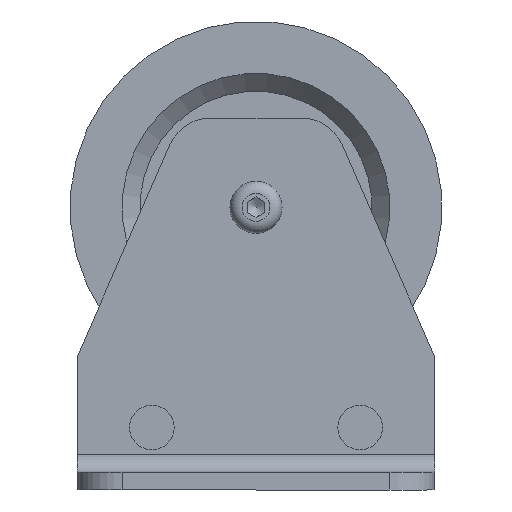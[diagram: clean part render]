
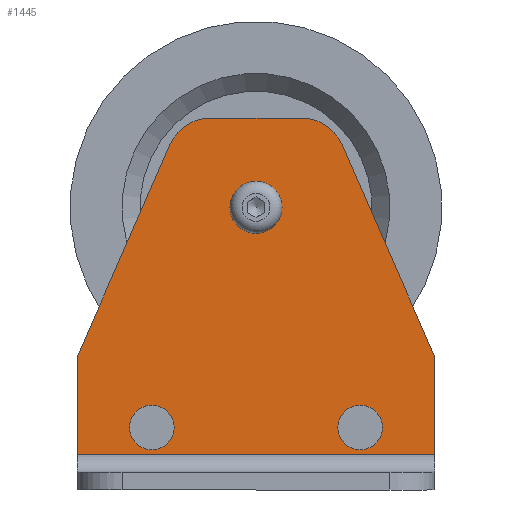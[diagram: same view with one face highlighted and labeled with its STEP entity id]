
A CAD part, front view. The second image highlights one B-rep face of the part: STEP entity #1445.
In plain terms, the highlighted planar face has unit normal (0, -1, 0) as drawn and (0, 0, 1) by its records, which use the part's own axes.
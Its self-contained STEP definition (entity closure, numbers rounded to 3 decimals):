
#110=FACE_BOUND('',#282,.T.);
#111=FACE_BOUND('',#283,.T.);
#112=FACE_BOUND('',#284,.T.);
#140=PLANE('',#1704);
#192=FACE_OUTER_BOUND('',#281,.T.);
#281=EDGE_LOOP('',(#1124,#1125,#1126,#1127,#1128,#1129,#1130,#1131));
#282=EDGE_LOOP('',(#1132));
#283=EDGE_LOOP('',(#1133));
#284=EDGE_LOOP('',(#1134));
#379=LINE('',#2453,#469);
#382=LINE('',#2459,#472);
#390=LINE('',#2493,#480);
#394=LINE('',#2502,#484);
#397=LINE('',#2509,#487);
#398=LINE('',#2511,#488);
#469=VECTOR('',#1959,10.);
#472=VECTOR('',#1964,10.);
#480=VECTOR('',#1998,10.);
#484=VECTOR('',#2008,10.);
#487=VECTOR('',#2017,10.);
#488=VECTOR('',#2020,10.);
#547=CIRCLE('',#1691,7.5);
#548=CIRCLE('',#1693,7.5);
#549=CIRCLE('',#1695,5.2);
#550=CIRCLE('',#1698,15.);
#551=CIRCLE('',#1701,15.);
#661=VERTEX_POINT('',#2444);
#662=VERTEX_POINT('',#2448);
#664=VERTEX_POINT('',#2457);
#673=VERTEX_POINT('',#2479);
#674=VERTEX_POINT('',#2483);
#675=VERTEX_POINT('',#2487);
#676=VERTEX_POINT('',#2491);
#677=VERTEX_POINT('',#2492);
#678=VERTEX_POINT('',#2497);
#679=VERTEX_POINT('',#2501);
#680=VERTEX_POINT('',#2505);
#820=EDGE_CURVE('',#661,#662,#379,.T.);
#823=EDGE_CURVE('',#664,#662,#382,.T.);
#834=EDGE_CURVE('',#673,#673,#547,.T.);
#836=EDGE_CURVE('',#674,#674,#548,.T.);
#838=EDGE_CURVE('',#675,#675,#549,.T.);
#839=EDGE_CURVE('',#676,#677,#390,.T.);
#842=EDGE_CURVE('',#677,#678,#550,.T.);
#844=EDGE_CURVE('',#678,#679,#394,.T.);
#846=EDGE_CURVE('',#679,#680,#551,.T.);
#848=EDGE_CURVE('',#680,#664,#397,.T.);
#849=EDGE_CURVE('',#661,#676,#398,.T.);
#1124=ORIENTED_EDGE('',*,*,#820,.T.);
#1125=ORIENTED_EDGE('',*,*,#823,.F.);
#1126=ORIENTED_EDGE('',*,*,#848,.F.);
#1127=ORIENTED_EDGE('',*,*,#846,.F.);
#1128=ORIENTED_EDGE('',*,*,#844,.F.);
#1129=ORIENTED_EDGE('',*,*,#842,.F.);
#1130=ORIENTED_EDGE('',*,*,#839,.F.);
#1131=ORIENTED_EDGE('',*,*,#849,.F.);
#1132=ORIENTED_EDGE('',*,*,#834,.T.);
#1133=ORIENTED_EDGE('',*,*,#836,.T.);
#1134=ORIENTED_EDGE('',*,*,#838,.T.);
#1445=ADVANCED_FACE('',(#192,#110,#111,#112),#140,.T.);
#1691=AXIS2_PLACEMENT_3D('',#2481,#1984,#1985);
#1693=AXIS2_PLACEMENT_3D('',#2485,#1989,#1990);
#1695=AXIS2_PLACEMENT_3D('',#2489,#1994,#1995);
#1698=AXIS2_PLACEMENT_3D('',#2498,#2003,#2004);
#1701=AXIS2_PLACEMENT_3D('',#2506,#2012,#2013);
#1704=AXIS2_PLACEMENT_3D('',#2512,#2021,#2022);
#1959=DIRECTION('',(1.,0.,0.));
#1964=DIRECTION('',(0.,-1.,0.));
#1984=DIRECTION('center_axis',(0.,0.,-1.));
#1985=DIRECTION('ref_axis',(-1.,0.,0.));
#1989=DIRECTION('center_axis',(0.,0.,-1.));
#1990=DIRECTION('ref_axis',(-1.,0.,0.));
#1994=DIRECTION('center_axis',(0.,0.,-1.));
#1995=DIRECTION('ref_axis',(-1.,0.,0.));
#1998=DIRECTION('',(0.401,0.916,0.));
#2003=DIRECTION('center_axis',(0.,0.,-1.));
#2004=DIRECTION('ref_axis',(0.,1.,0.));
#2008=DIRECTION('',(1.,0.,0.));
#2012=DIRECTION('center_axis',(0.,0.,-1.));
#2013=DIRECTION('ref_axis',(0.916,0.401,0.));
#2017=DIRECTION('',(0.401,-0.916,0.));
#2020=DIRECTION('',(0.,1.,0.));
#2021=DIRECTION('center_axis',(0.,0.,1.));
#2022=DIRECTION('ref_axis',(1.,0.,0.));
#2444=CARTESIAN_POINT('',(-60.,12.,6.));
#2448=CARTESIAN_POINT('',(60.,12.,6.));
#2453=CARTESIAN_POINT('',(30.,12.,6.));
#2457=CARTESIAN_POINT('',(60.,45.,6.));
#2459=CARTESIAN_POINT('',(60.,0.,6.));
#2479=CARTESIAN_POINT('',(42.5,21.,6.));
#2481=CARTESIAN_POINT('Origin',(35.,21.,6.));
#2483=CARTESIAN_POINT('',(-27.5,21.,6.));
#2485=CARTESIAN_POINT('Origin',(-35.,21.,6.));
#2487=CARTESIAN_POINT('',(5.2,95.,6.));
#2489=CARTESIAN_POINT('Origin',(0.,95.,6.));
#2491=CARTESIAN_POINT('',(-60.,45.,6.));
#2492=CARTESIAN_POINT('',(-28.932,116.012,6.));
#2493=CARTESIAN_POINT('',(-28.932,116.012,6.));
#2497=CARTESIAN_POINT('',(-15.19,125.,6.));
#2498=CARTESIAN_POINT('Origin',(-15.19,110.,6.));
#2501=CARTESIAN_POINT('',(15.19,125.,6.));
#2502=CARTESIAN_POINT('',(15.19,125.,6.));
#2505=CARTESIAN_POINT('',(28.932,116.012,6.));
#2506=CARTESIAN_POINT('Origin',(15.19,110.,6.));
#2509=CARTESIAN_POINT('',(60.,45.,6.));
#2511=CARTESIAN_POINT('',(-60.,45.,6.));
#2512=CARTESIAN_POINT('Origin',(0.,52.383,6.));
